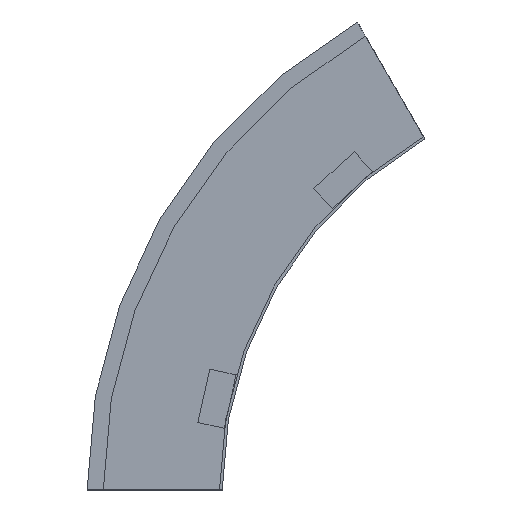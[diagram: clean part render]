
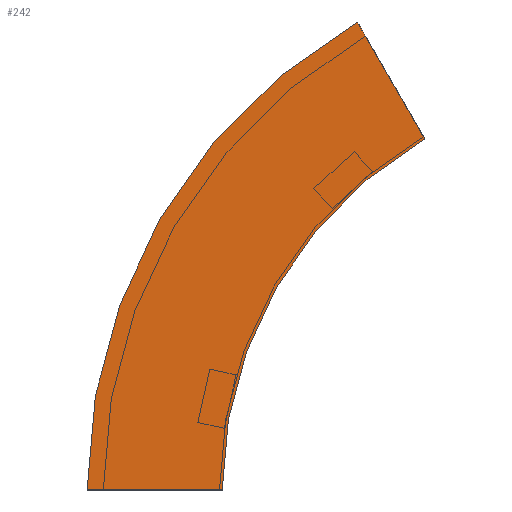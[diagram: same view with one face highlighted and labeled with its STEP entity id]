
A CAD part, left-side view. The second image highlights one B-rep face of the part: STEP entity #242.
In plain terms, the highlighted planar face has unit normal (-1, 0, 0) as drawn and (1, 0, 0) by its records, which use the part's own axes.
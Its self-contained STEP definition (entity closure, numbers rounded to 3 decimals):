
#25 = VECTOR ( 'NONE', #406, 1000. ) ;
#42 = CIRCLE ( 'NONE', #89, 300. ) ;
#49 = CARTESIAN_POINT ( 'NONE',  ( 0., -150., 259.808 ) ) ;
#64 = VERTEX_POINT ( 'NONE', #408 ) ;
#89 = AXIS2_PLACEMENT_3D ( 'NONE', #538, #500, #456 ) ;
#110 = CARTESIAN_POINT ( 'NONE',  ( 0., 0., 0. ) ) ;
#115 = PLANE ( 'NONE',  #399 ) ;
#121 = CARTESIAN_POINT ( 'NONE',  ( 0., 100., 0. ) ) ;
#125 = EDGE_LOOP ( 'NONE', ( #228, #475, #551, #207 ) ) ;
#155 = CARTESIAN_POINT ( 'NONE',  ( 0., -100., 346.41 ) ) ;
#159 = DIRECTION ( 'NONE',  ( 1., 0., 0. ) ) ;
#183 = VERTEX_POINT ( 'NONE', #155 ) ;
#200 = LINE ( 'NONE', #110, #25 ) ;
#207 = ORIENTED_EDGE ( 'NONE', *, *, #222, .T. ) ;
#214 = VERTEX_POINT ( 'NONE', #121 ) ;
#222 = EDGE_CURVE ( 'NONE', #64, #214, #200, .T. ) ;
#228 = ORIENTED_EDGE ( 'NONE', *, *, #286, .T. ) ;
#242 = ADVANCED_FACE ( 'NONE', ( #508 ), #115, .T. ) ;
#264 = VECTOR ( 'NONE', #522, 1000. ) ;
#275 = VERTEX_POINT ( 'NONE', #342 ) ;
#286 = EDGE_CURVE ( 'NONE', #214, #183, #357, .T. ) ;
#292 = CARTESIAN_POINT ( 'NONE',  ( 0., 0., 0. ) ) ;
#335 = DIRECTION ( 'NONE',  ( 0., 1., 0. ) ) ;
#342 = CARTESIAN_POINT ( 'NONE',  ( 0., -150., 259.808 ) ) ;
#355 = EDGE_CURVE ( 'NONE', #275, #183, #432, .T. ) ;
#357 = CIRCLE ( 'NONE', #435, 400. ) ;
#399 = AXIS2_PLACEMENT_3D ( 'NONE', #292, #159, #465 ) ;
#406 = DIRECTION ( 'NONE',  ( 0., 1., 0. ) ) ;
#408 = CARTESIAN_POINT ( 'NONE',  ( 0., 0., 0. ) ) ;
#432 = LINE ( 'NONE', #49, #264 ) ;
#434 = DIRECTION ( 'NONE',  ( 1., 0., 0. ) ) ;
#435 = AXIS2_PLACEMENT_3D ( 'NONE', #572, #434, #335 ) ;
#456 = DIRECTION ( 'NONE',  ( 0., 1., 0. ) ) ;
#465 = DIRECTION ( 'NONE',  ( 0., 0., -1. ) ) ;
#475 = ORIENTED_EDGE ( 'NONE', *, *, #355, .F. ) ;
#500 = DIRECTION ( 'NONE',  ( 1., 0., 0. ) ) ;
#508 = FACE_OUTER_BOUND ( 'NONE', #125, .T. ) ;
#522 = DIRECTION ( 'NONE',  ( 0., 0.5, 0.866 ) ) ;
#538 = CARTESIAN_POINT ( 'NONE',  ( 0., -300., 0. ) ) ;
#551 = ORIENTED_EDGE ( 'NONE', *, *, #556, .F. ) ;
#556 = EDGE_CURVE ( 'NONE', #64, #275, #42, .T. ) ;
#572 = CARTESIAN_POINT ( 'NONE',  ( 0., -300., 0. ) ) ;
